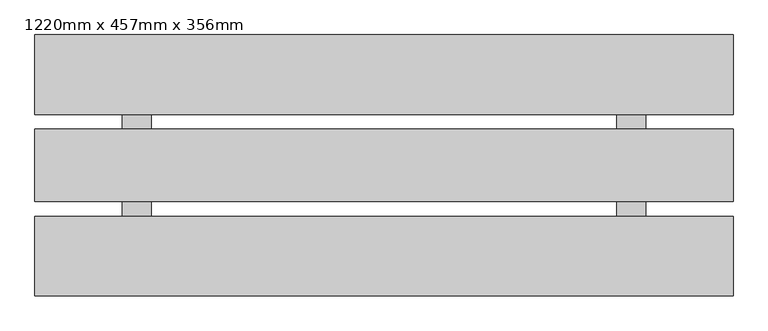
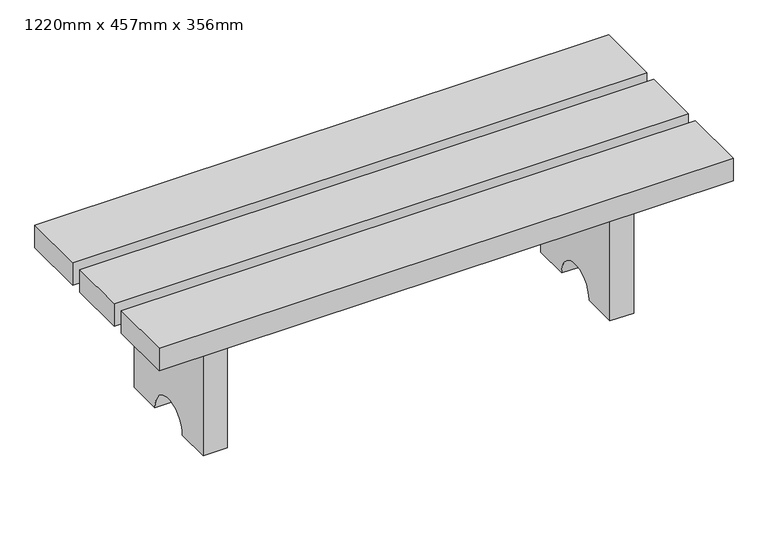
"""IFC4 building model written with IfcOpenShell, lengths in millimetres: geographic element geometry, Banc public : 1220mm x 457mm x 356mm."""

from ifc_helpers import new_model, si_unit, point, frame, frame_2d, origin, place, context, project, spatial, polyline, circle_curve, trimmed, segment, composite_curve, outline, extrude, source, transform, mapped, element, save


def geographic_element_1220mm_x_457mm_x_356mm_9c3a7327(model_context):
    return source(origin(), model_context, "Body", "SweptSolid", [
        extrude(outline(polyline([(454.6852459, 47.7852459), (454.6852459, -91.8480874), (-765.3147541, -91.8480874), (-765.3147541, 47.7852459), (454.6852459, 47.7852459)])), frame((0.0, 0.0, 305.2), z_axis=(0.0, 0.0, 1.0), x_axis=(1.0, 0.0, 0.0)), (0.0, 0.0, 1.0), 50.8),
        extrude(outline(polyline([(454.6852459, -409.2147541), (-765.3147541, -409.2147541), (-765.3147541, -269.5814208), (454.6852459, -269.5814208), (454.6852459, -409.2147541)])), frame((0.0, 0.0, 305.2), z_axis=(0.0, 0.0, 1.0), x_axis=(1.0, 0.0, 0.0)), (0.0, 0.0, 1.0), 50.8),
        extrude(outline(polyline([(454.6852459, -117.2480874), (454.6852459, -244.1814208), (-765.3147541, -244.1814208), (-765.3147541, -117.2480874), (454.6852459, -117.2480874)])), frame((0.0, 0.0, 305.2), z_axis=(0.0, 0.0, 1.0), x_axis=(1.0, 0.0, 0.0)), (0.0, 0.0, 1.0), 50.8),
        extrude(outline(composite_curve([segment(polyline([(-307.6147541, 0.0), (-307.6147541, 305.2), (-53.8147541, 305.2), (-53.8147541, 0.0), (-130.0147541, 0.0)]), True, "CONTINUOUS"), segment(trimmed(circle_curve(frame_2d((-180.7147541, 0.0)), 50.7), [point((-130.0147541, 0.0))], [point((-231.4147541, 0.0))], True, "CARTESIAN"), True, "CONTINUOUS"), segment(polyline([(-231.4147541, 0.0), (-307.6147541, 0.0)]), True, "CONTINUOUS")], self_intersect=False)), frame((251.4852459, 0.0, 0.0), z_axis=(1.0, 0.0, 0.0), x_axis=(0.0, 1.0, 0.0)), (0.0, 0.0, 1.0), 50.8),
        extrude(outline(composite_curve([segment(polyline([(-53.8147541, 0.0), (-130.0147541, 0.0)]), True, "CONTINUOUS"), segment(trimmed(circle_curve(frame_2d((-180.7147541, 0.0)), 50.7), [point((-130.0147541, 0.0))], [point((-231.4147541, 0.0))], True, "CARTESIAN"), True, "CONTINUOUS"), segment(polyline([(-231.4147541, 0.0), (-307.6147541, 0.0), (-307.6147541, 305.2), (-53.8147541, 305.2), (-53.8147541, 0.0)]), True, "CONTINUOUS")], self_intersect=False)), frame((-612.9147541, 0.0, 0.0), z_axis=(1.0, 0.0, 0.0), x_axis=(0.0, 1.0, 0.0)), (0.0, 0.0, 1.0), 50.8),
    ])


if __name__ == "__main__":
    model = new_model("IFC4")
    model_context = context("Model", 3, world=origin())
    ifc_project = project(units=[si_unit("LENGTHUNIT", "METRE", prefix="MILLI")], contexts=[model_context])
    site = spatial("IfcSite", under=ifc_project)
    building = spatial("IfcBuilding", under=site)
    placement = place(None, origin())
    geographic_element_1220mm_x_457mm_x_356mm_shape = geographic_element_1220mm_x_457mm_x_356mm_9c3a7327(model_context)
    element("IfcGeographicElement", 1, ObjectType="Banc public : 1220mm x 457mm x 356mm", at=placement, inside=building, context=model_context, shape_type="MappedRepresentation", body=[
        mapped(geographic_element_1220mm_x_457mm_x_356mm_shape, transform((0.0, 0.0, 0.0), x_axis=(1.0, 0.0, 0.0), y_axis=(0.0, 1.0, 0.0), z_axis=(0.0, 0.0, 1.0))),
    ])
    save(model, "model.ifc")
